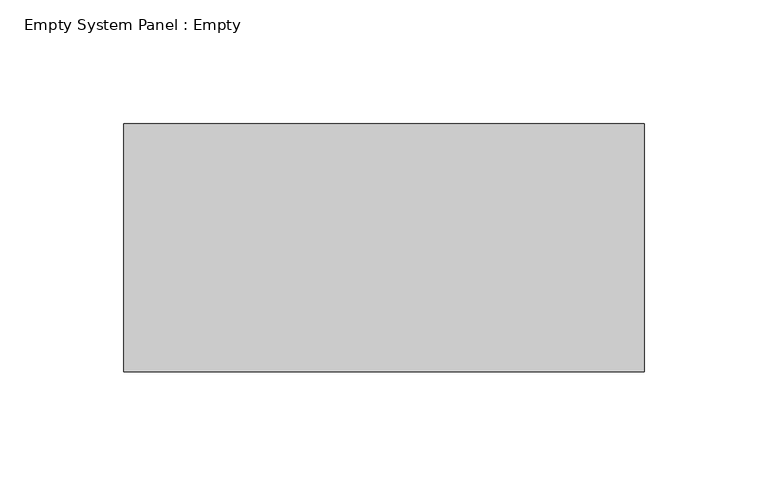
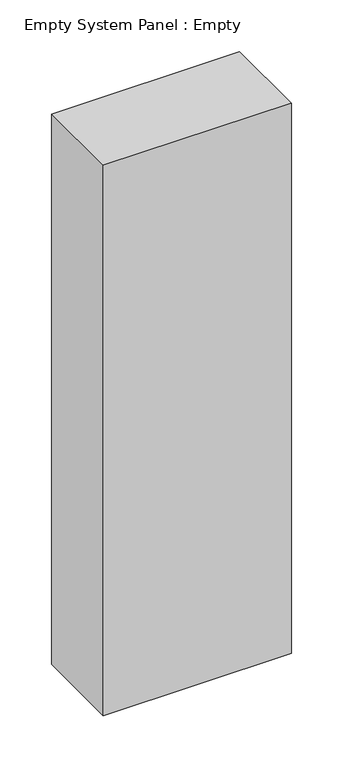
"""IFC4 building model written with IfcOpenShell, lengths in millimetres: plate geometry, Empty System Panel : Empty."""

from ifc_helpers import new_model, si_unit, origin, origin_with_axes, place, context, project, spatial, polyline, outline, extrude, source, transform, mapped, element, save


def empty_system_panel_empty_4b1068c0(model_context):
    return source(origin(), model_context, "Body", "SweptSolid", [
        extrude(outline(polyline([(105.0, -50.0), (-105.0, -50.0), (-105.0, 50.0), (105.0, 50.0), (105.0, -50.0)])), origin_with_axes(), (0.0, 0.0, 1.0), 650.0),
    ])


if __name__ == "__main__":
    model = new_model("IFC4")
    model_context = context("Model", 3, world=origin())
    ifc_project = project(units=[si_unit("LENGTHUNIT", "METRE", prefix="MILLI")], contexts=[model_context])
    site = spatial("IfcSite", under=ifc_project)
    building = spatial("IfcBuilding", under=site)
    placement = place(None, origin())
    empty_system_panel_empty_shape = empty_system_panel_empty_4b1068c0(model_context)
    element("IfcPlate", 1, ObjectType="Empty System Panel : Empty", at=placement, inside=building, context=model_context, shape_type="MappedRepresentation", body=[
        mapped(empty_system_panel_empty_shape, transform((0.0, 0.0, 0.0), x_axis=(1.0, 0.0, 0.0), y_axis=(0.0, 1.0, 0.0), z_axis=(0.0, 0.0, 1.0))),
    ])
    save(model, "model.ifc")
